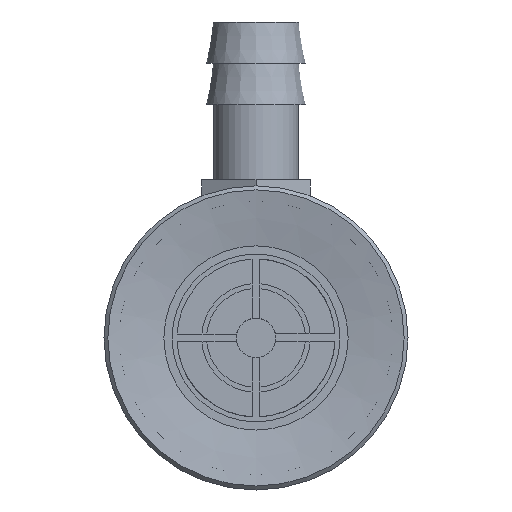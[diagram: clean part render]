
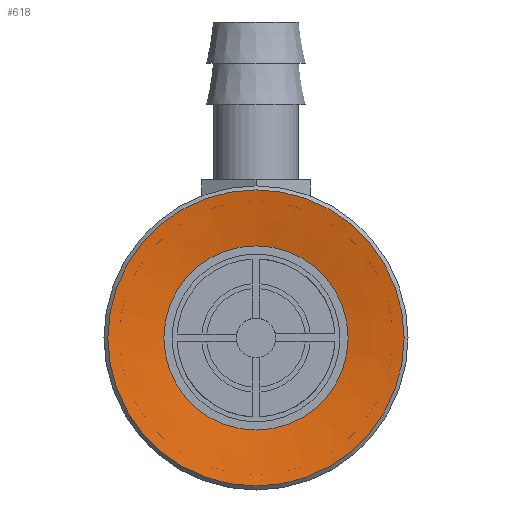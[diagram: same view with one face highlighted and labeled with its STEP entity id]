
A CAD part, front view. The second image highlights one B-rep face of the part: STEP entity #618.
In plain terms, the highlighted conical face has half-angle 80 degrees and reference radius 4.664 mm.
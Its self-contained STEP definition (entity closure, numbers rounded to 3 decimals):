
#618=ADVANCED_FACE('',(#1023,#1024),#1025,.F.);
#1023=FACE_BOUND('',#1444,.T.);
#1024=FACE_OUTER_BOUND('',#1445,.T.);
#1025=CONICAL_SURFACE('',#1446,4.664,1.396);
#1444=EDGE_LOOP('',(#2605));
#1445=EDGE_LOOP('',(#2606));
#1446=AXIS2_PLACEMENT_3D('',#2607,#2608,#2609);
#2605=ORIENTED_EDGE('',*,*,#3028,.F.);
#2606=ORIENTED_EDGE('',*,*,#3012,.T.);
#2607=CARTESIAN_POINT('',(0.0,0.5,0.0));
#2608=DIRECTION('',(-0.0,-1.0,0.));
#2609=DIRECTION('',(0.0,0.,-1.0));
#3012=EDGE_CURVE('',#3582,#3582,#3583,.T.);
#3028=EDGE_CURVE('',#3605,#3605,#3606,.T.);
#3582=VERTEX_POINT('',#4734);
#3583=CIRCLE('',#4735,7.5);
#3605=VERTEX_POINT('',#4762);
#3606=CIRCLE('',#4763,4.664);
#4734=CARTESIAN_POINT('',(0.0,0.,-7.5));
#4735=AXIS2_PLACEMENT_3D('',#5239,#5240,#5241);
#4762=CARTESIAN_POINT('',(0.0,0.5,-4.664));
#4763=AXIS2_PLACEMENT_3D('',#5277,#5278,#5279);
#5239=CARTESIAN_POINT('',(0.0,0.0,0.0));
#5240=DIRECTION('',(0.0,-1.0,0.));
#5241=DIRECTION('',(0.0,0.,-1.0));
#5277=CARTESIAN_POINT('',(0.0,0.5,0.0));
#5278=DIRECTION('',(0.0,-1.0,0.));
#5279=DIRECTION('',(0.0,0.,-1.0));
